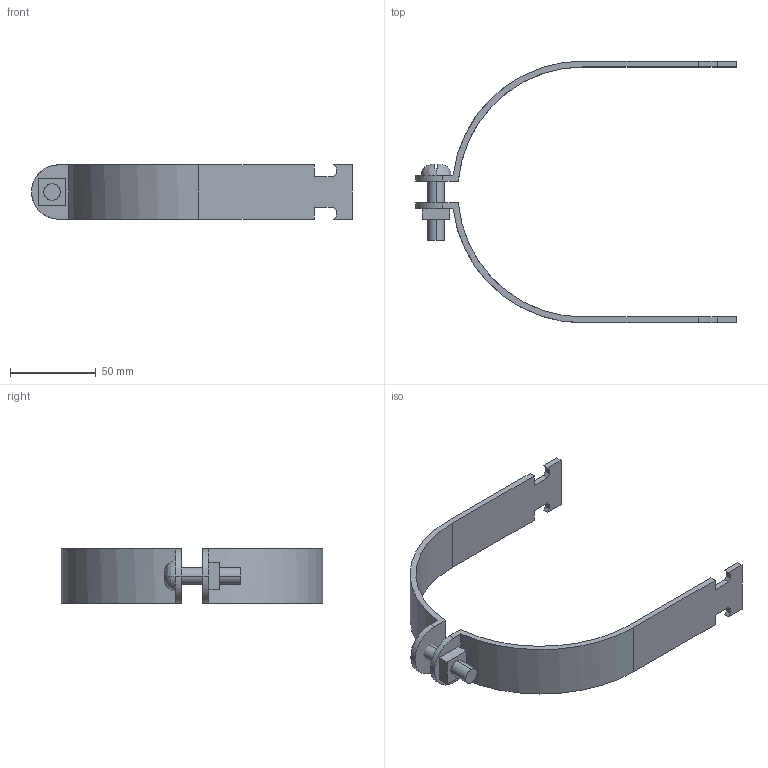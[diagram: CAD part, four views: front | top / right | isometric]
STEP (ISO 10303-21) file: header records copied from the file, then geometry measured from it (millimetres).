
FILE_DESCRIPTION(('TurboCAD Mac Pro'),'Build 980');
FILE_NAME('P2068.stp',' ',(''),(''),'ACIS Interop','IMSI','TurboCAD Mac Pro BY IMSI, INCORPORATED');
FILE_SCHEMA(('automotive_design'));
Length unit declared in the file: inch
Products named in the file (5): 1; 2; 3; 4; 5
Bounding box: 187.32 x 152.93 x 31.75 mm (x, y, z)
Volume: 51444.7 mm3; surface area: 33543.5 mm2
Topology: 4 solids, 4 shells, 71 faces, 186 edges, 124 vertices
Faces by surface type: plane 51, bspline 20
Entity records: 3487 total; most frequent: CARTESIAN_POINT 1050, ORIENTED_EDGE 372, DIRECTION 258, EDGE_CURVE 186, LINE 138, VECTOR 138, VERTEX_POINT 124, STYLED_ITEM 91
